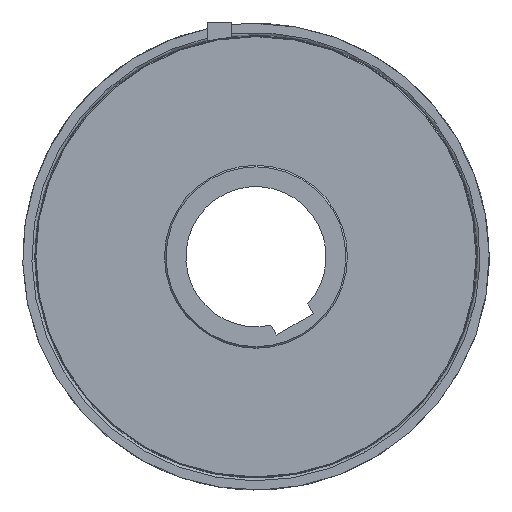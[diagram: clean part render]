
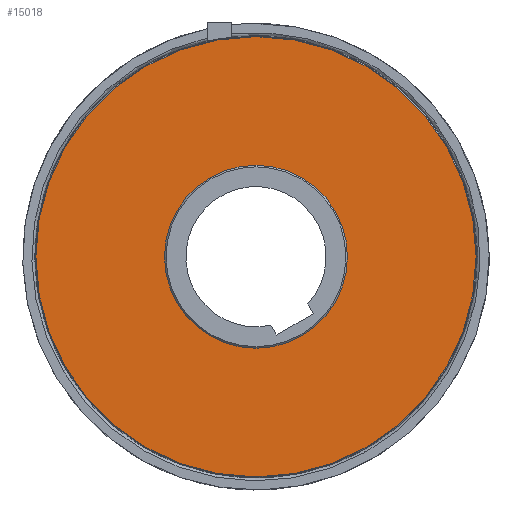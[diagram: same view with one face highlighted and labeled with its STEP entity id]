
A CAD part, left-side view. The second image highlights one B-rep face of the part: STEP entity #15018.
In plain terms, the highlighted planar face has unit normal (-1, 0, 0).
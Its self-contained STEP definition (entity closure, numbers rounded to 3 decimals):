
#898=FACE_BOUND('',#4563,.T.);
#3580=FACE_OUTER_BOUND('',#4562,.T.);
#4562=EDGE_LOOP('',(#13026));
#4563=EDGE_LOOP('',(#13027));
#5436=CIRCLE('',#16694,72.2);
#5452=CIRCLE('',#16712,30.);
#6822=VERTEX_POINT('',#32885);
#6850=VERTEX_POINT('',#32945);
#8888=EDGE_CURVE('',#6822,#6822,#5436,.T.);
#8918=EDGE_CURVE('',#6850,#6850,#5452,.T.);
#13026=ORIENTED_EDGE('',*,*,#8888,.F.);
#13027=ORIENTED_EDGE('',*,*,#8918,.F.);
#13503=PLANE('',#16711);
#15018=ADVANCED_FACE('',(#3580,#898),#13503,.T.);
#16694=AXIS2_PLACEMENT_3D('',#32886,#20860,#20861);
#16711=AXIS2_PLACEMENT_3D('',#32944,#20908,#20909);
#16712=AXIS2_PLACEMENT_3D('',#32946,#20910,#20911);
#20860=DIRECTION('center_axis',(1.,0.,0.));
#20861=DIRECTION('ref_axis',(0.,-1.,0.));
#20908=DIRECTION('center_axis',(-1.,0.,0.));
#20909=DIRECTION('ref_axis',(0.,0.,
1.));
#20910=DIRECTION('center_axis',(-1.,0.,0.));
#20911=DIRECTION('ref_axis',(0.,1.,0.));
#32885=CARTESIAN_POINT('',(-98.8,72.2,0.));
#32886=CARTESIAN_POINT('Origin',(-98.8,0.,0.));
#32944=CARTESIAN_POINT('Origin',(-98.8,51.25,0.));
#32945=CARTESIAN_POINT('',(-98.8,-30.,0.));
#32946=CARTESIAN_POINT('Origin',(-98.8,0.,0.));
